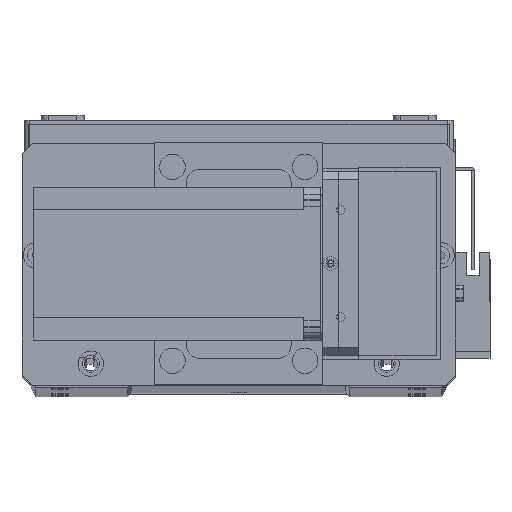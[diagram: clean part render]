
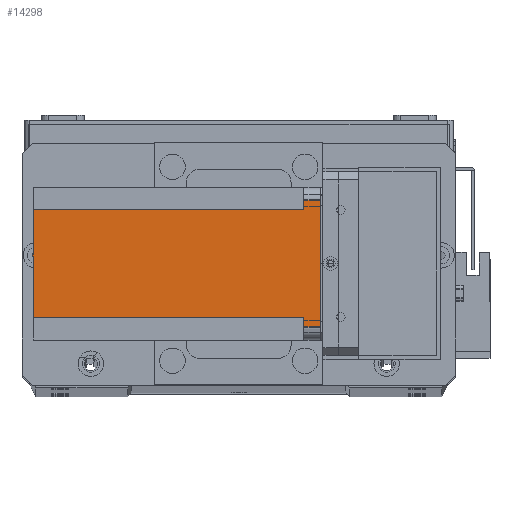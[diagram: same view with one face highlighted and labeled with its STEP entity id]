
A CAD part, top view. The second image highlights one B-rep face of the part: STEP entity #14298.
In plain terms, the highlighted planar face has unit normal (0, 0, 1) as drawn and (-1, 0, 0) by its records, which use the part's own axes.
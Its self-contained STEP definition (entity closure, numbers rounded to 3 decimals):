
#379 = CARTESIAN_POINT ( 'NONE',  ( 0., 51., -112.5 ) ) ;
#785 = CARTESIAN_POINT ( 'NONE',  ( 0., 5., -112.5 ) ) ;
#2451 = VECTOR ( 'NONE', #7029, 1000. ) ;
#3803 = VECTOR ( 'NONE', #12982, 1000. ) ;
#4748 = VERTEX_POINT ( 'NONE', #7528 ) ;
#5247 = CARTESIAN_POINT ( 'NONE',  ( 0., 60., -6.5 ) ) ;
#5647 = VERTEX_POINT ( 'NONE', #29110 ) ;
#6328 = VERTEX_POINT ( 'NONE', #379 ) ;
#7029 = DIRECTION ( 'NONE',  ( 0., -1., 0. ) ) ;
#7375 = CARTESIAN_POINT ( 'NONE',  ( 0., 9., -112.5 ) ) ;
#7528 = CARTESIAN_POINT ( 'NONE',  ( 0., 5., -6.5 ) ) ;
#7834 = EDGE_LOOP ( 'NONE', ( #21799, #22908, #23624, #24050, #25165, #26044, #26316, #28012 ) ) ;
#8435 = VECTOR ( 'NONE', #15277, 1000. ) ;
#9071 = CARTESIAN_POINT ( 'NONE',  ( 0., 0., -6.5 ) ) ;
#9256 = LINE ( 'NONE', #27448, #8435 ) ;
#10349 = CARTESIAN_POINT ( 'NONE',  ( 0., 0., -112.5 ) ) ;
#10688 = LINE ( 'NONE', #5247, #3803 ) ;
#10917 = VERTEX_POINT ( 'NONE', #22119 ) ;
#11155 = LINE ( 'NONE', #9071, #18468 ) ;
#11772 = VECTOR ( 'NONE', #17818, 1000. ) ;
#12018 = CARTESIAN_POINT ( 'NONE',  ( 0., 51., -6.5 ) ) ;
#12041 = VECTOR ( 'NONE', #20764, 1000. ) ;
#12812 = LINE ( 'NONE', #28036, #12041 ) ;
#12982 = DIRECTION ( 'NONE',  ( 0., 1., 0. ) ) ;
#14112 = DIRECTION ( 'NONE',  ( 0., 1., 0. ) ) ;
#14298 = ADVANCED_FACE ( 'NONE', ( #21249 ), #15214, .T. ) ;
#15036 = AXIS2_PLACEMENT_3D ( 'NONE', #15174, #15167, #15131 ) ;
#15131 = DIRECTION ( 'NONE',  ( 0., -1., 0. ) ) ;
#15167 = DIRECTION ( 'NONE',  ( -1., 0., 0. ) ) ;
#15174 = CARTESIAN_POINT ( 'NONE',  ( 0., 0., -112.5 ) ) ;
#15214 = PLANE ( 'NONE',  #15036 ) ;
#15277 = DIRECTION ( 'NONE',  ( 0., 0., 1. ) ) ;
#16132 = VERTEX_POINT ( 'NONE', #21283 ) ;
#17345 = DIRECTION ( 'NONE',  ( 0., 0., -1. ) ) ;
#17810 = VECTOR ( 'NONE', #20986, 1000. ) ;
#17818 = DIRECTION ( 'NONE',  ( 0., -1., 0. ) ) ;
#18246 = VECTOR ( 'NONE', #17345, 1000. ) ;
#18282 = LINE ( 'NONE', #10349, #11772 ) ;
#18468 = VECTOR ( 'NONE', #14112, 1000. ) ;
#19436 = CARTESIAN_POINT ( 'NONE',  ( 0., 0., 0. ) ) ;
#19780 = LINE ( 'NONE', #7375, #18246 ) ;
#20764 = DIRECTION ( 'NONE',  ( 0., 0., -1. ) ) ;
#20986 = DIRECTION ( 'NONE',  ( 0., 0., 1. ) ) ;
#21249 = FACE_OUTER_BOUND ( 'NONE', #7834, .T. ) ;
#21283 = CARTESIAN_POINT ( 'NONE',  ( 0., 55., 0. ) ) ;
#21799 = ORIENTED_EDGE ( 'NONE', *, *, #23621, .F. ) ;
#22040 = CARTESIAN_POINT ( 'NONE',  ( 0., 5., 0. ) ) ;
#22119 = CARTESIAN_POINT ( 'NONE',  ( 0., 9., -112.5 ) ) ;
#22561 = LINE ( 'NONE', #19436, #2451 ) ;
#22908 = ORIENTED_EDGE ( 'NONE', *, *, #26651, .T. ) ;
#23579 = LINE ( 'NONE', #785, #17810 ) ;
#23621 = EDGE_CURVE ( 'NONE', #4748, #5647, #11155, .T. ) ;
#23624 = ORIENTED_EDGE ( 'NONE', *, *, #30622, .F. ) ;
#24050 = ORIENTED_EDGE ( 'NONE', *, *, #26567, .T. ) ;
#24910 = EDGE_CURVE ( 'NONE', #5647, #10917, #19780, .T. ) ;
#25165 = ORIENTED_EDGE ( 'NONE', *, *, #27401, .F. ) ;
#26044 = ORIENTED_EDGE ( 'NONE', *, *, #27343, .F. ) ;
#26316 = ORIENTED_EDGE ( 'NONE', *, *, #29151, .T. ) ;
#26567 = EDGE_CURVE ( 'NONE', #16132, #31735, #12812, .T. ) ;
#26651 = EDGE_CURVE ( 'NONE', #4748, #27229, #23579, .T. ) ;
#26917 = CARTESIAN_POINT ( 'NONE',  ( 0., 55., -6.5 ) ) ;
#27172 = VERTEX_POINT ( 'NONE', #12018 ) ;
#27229 = VERTEX_POINT ( 'NONE', #22040 ) ;
#27343 = EDGE_CURVE ( 'NONE', #6328, #27172, #9256, .T. ) ;
#27401 = EDGE_CURVE ( 'NONE', #27172, #31735, #10688, .T. ) ;
#27448 = CARTESIAN_POINT ( 'NONE',  ( 0., 51., -112.5 ) ) ;
#28012 = ORIENTED_EDGE ( 'NONE', *, *, #24910, .F. ) ;
#28036 = CARTESIAN_POINT ( 'NONE',  ( 0., 55., -112.5 ) ) ;
#29110 = CARTESIAN_POINT ( 'NONE',  ( 0., 9., -6.5 ) ) ;
#29151 = EDGE_CURVE ( 'NONE', #6328, #10917, #18282, .T. ) ;
#30622 = EDGE_CURVE ( 'NONE', #16132, #27229, #22561, .T. ) ;
#31735 = VERTEX_POINT ( 'NONE', #26917 ) ;
